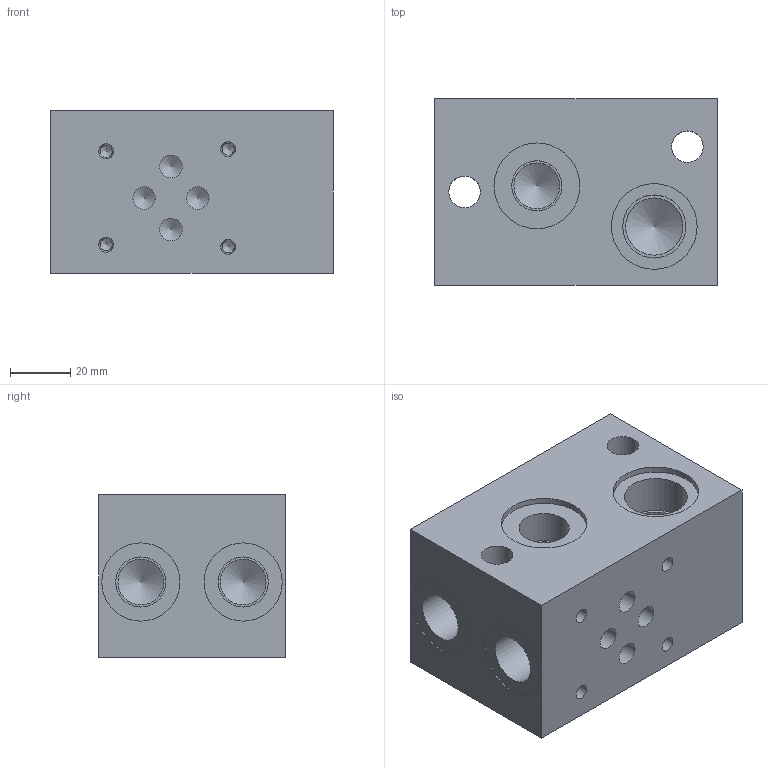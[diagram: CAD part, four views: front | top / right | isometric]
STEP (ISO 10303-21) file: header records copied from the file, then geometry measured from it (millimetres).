
FILE_DESCRIPTION(('Bauteilbeschreibung','HiCAD-Model','HiCAD-STEP-TRANSLATION','Bauteilbeschreibung'),'2;1');
FILE_NAME('C:/_EIGENE_DATEN/DXF_STEP/ALV6_3508.STP','2008-08-25T13:39:38+00:00',('Konstrukteur'),('Konstrukteur Firma GmbH'),' HiCAD neXt 2007, Step 3.1.1212.3C ','HiCAD neXt 2007','confidential');
FILE_SCHEMA(('AUTOMOTIVE_DESIGN { 1 2 10303 214 0 1 1 1 }'));
Length unit declared in the file: millimetre
Products named in the file (3): ALV6_3508; ALV6 ; DC0E24D2
Assembly tree (2 placements, depth 3):
  ALV6_3508
    ALV6 
      DC0E24D2
Bounding box: 94 x 62 x 54 mm (x, y, z)
Volume: 271253.3 mm3; surface area: 39604 mm2
Topology: 1 solids, 1 shells, 64 faces, 172 edges, 118 vertices
Faces by surface type: cylinder 30, cone 20, plane 14
Full cylindrical faces by diameter (mm): 4.019 x4, 5 x4, 7.5 x4, 10.5 x2, 14.95 x1, 15.25 x3, 16.662 x4, 18.631 x1, 19 x1, 20.955 x2, 26 x2, 28.5 x2
Entity records: 2342 total; most frequent: DIRECTION 268, CARTESIAN_POINT 222, ORIENTED_EDGE 144, COLOUR_RGB 137, PRESENTATION_STYLE_ASSIGNMENT 137, OVER_RIDING_STYLED_ITEM 136, AXIS2_PLACEMENT_3D 128, EDGE_LOOP 126
